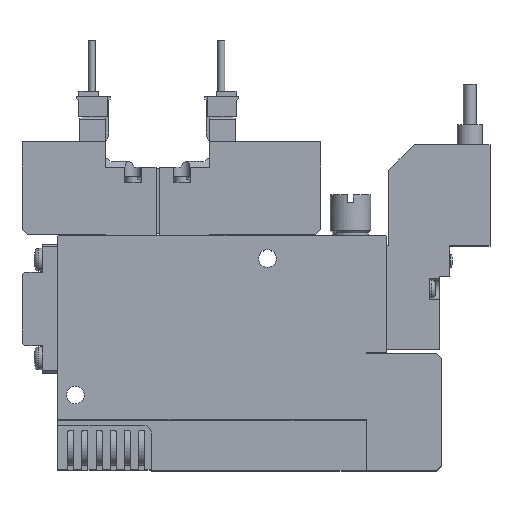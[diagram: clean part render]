
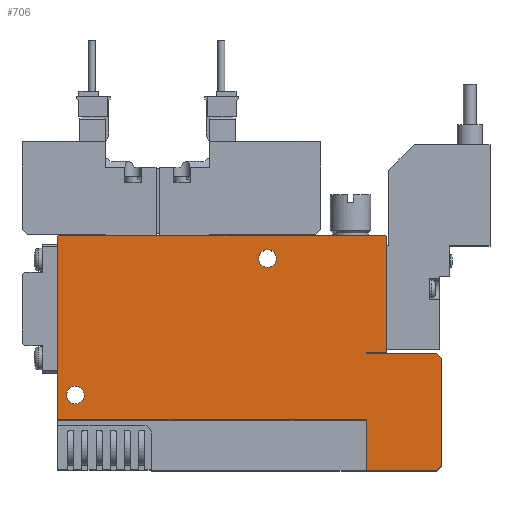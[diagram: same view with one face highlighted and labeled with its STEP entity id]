
A CAD part, top view. The second image highlights one B-rep face of the part: STEP entity #706.
In plain terms, the highlighted planar face has unit normal (0, 0, 1).
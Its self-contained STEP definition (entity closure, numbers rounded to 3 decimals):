
#706=ADVANCED_FACE('',(#1639,#1640,#1641),#1642,.F.);
#1639=FACE_OUTER_BOUND('',#2699,.T.);
#1640=FACE_BOUND('',#2700,.T.);
#1641=FACE_BOUND('',#2701,.T.);
#1642=PLANE('',#2702);
#2699=EDGE_LOOP('',(#6027,#6028,#6029,#6030,#6031,#6032,#6033,#6034,#6035,#6036,#6037,#6038,#6039,#6040));
#2700=EDGE_LOOP('',(#6041));
#2701=EDGE_LOOP('',(#6042));
#2702=AXIS2_PLACEMENT_3D('',#6043,#6044,#6045);
#6027=ORIENTED_EDGE('',*,*,#8033,.T.);
#6028=ORIENTED_EDGE('',*,*,#7822,.F.);
#6029=ORIENTED_EDGE('',*,*,#7852,.F.);
#6030=ORIENTED_EDGE('',*,*,#8034,.T.);
#6031=ORIENTED_EDGE('',*,*,#8035,.T.);
#6032=ORIENTED_EDGE('',*,*,#7778,.T.);
#6033=ORIENTED_EDGE('',*,*,#8036,.T.);
#6034=ORIENTED_EDGE('',*,*,#8037,.T.);
#6035=ORIENTED_EDGE('',*,*,#8038,.T.);
#6036=ORIENTED_EDGE('',*,*,#7884,.T.);
#6037=ORIENTED_EDGE('',*,*,#7901,.T.);
#6038=ORIENTED_EDGE('',*,*,#8039,.T.);
#6039=ORIENTED_EDGE('',*,*,#8040,.T.);
#6040=ORIENTED_EDGE('',*,*,#7983,.T.);
#6041=ORIENTED_EDGE('',*,*,#7985,.F.);
#6042=ORIENTED_EDGE('',*,*,#8041,.F.);
#6043=CARTESIAN_POINT('',(0.0,0.0,5.0));
#6044=DIRECTION('',(0.0,0.0,-1.0));
#6045=DIRECTION('',(0.0,-1.0,0.0));
#7778=EDGE_CURVE('',#9621,#9619,#9622,.T.);
#7822=EDGE_CURVE('',#9705,#9706,#9707,.T.);
#7852=EDGE_CURVE('',#9758,#9705,#9760,.T.);
#7884=EDGE_CURVE('',#9817,#9815,#9818,.T.);
#7901=EDGE_CURVE('',#9815,#9844,#9846,.T.);
#7983=EDGE_CURVE('',#9988,#9986,#9989,.T.);
#7985=EDGE_CURVE('',#9991,#9991,#9992,.T.);
#8033=EDGE_CURVE('',#9986,#9706,#10070,.T.);
#8034=EDGE_CURVE('',#9758,#10071,#10072,.T.);
#8035=EDGE_CURVE('',#10071,#9621,#10073,.T.);
#8036=EDGE_CURVE('',#9619,#10074,#10075,.T.);
#8037=EDGE_CURVE('',#10074,#10076,#10077,.T.);
#8038=EDGE_CURVE('',#10076,#9817,#10078,.T.);
#8039=EDGE_CURVE('',#9844,#10079,#10080,.T.);
#8040=EDGE_CURVE('',#10079,#9988,#10081,.T.);
#8041=EDGE_CURVE('',#10082,#10082,#10083,.T.);
#9619=VERTEX_POINT('',#12694);
#9621=VERTEX_POINT('',#12697);
#9622=LINE('',#12698,#12699);
#9705=VERTEX_POINT('',#12843);
#9706=VERTEX_POINT('',#12844);
#9707=LINE('',#12845,#12846);
#9758=VERTEX_POINT('',#12939);
#9760=LINE('',#12942,#12943);
#9815=VERTEX_POINT('',#13042);
#9817=VERTEX_POINT('',#13045);
#9818=LINE('',#13046,#13047);
#9844=VERTEX_POINT('',#13101);
#9846=LINE('',#13104,#13105);
#9986=VERTEX_POINT('',#13318);
#9988=VERTEX_POINT('',#13321);
#9989=LINE('',#13322,#13323);
#9991=VERTEX_POINT('',#13326);
#9992=CIRCLE('',#13327,1.75);
#10070=LINE('',#13459,#13460);
#10071=VERTEX_POINT('',#13461);
#10072=LINE('',#13462,#13463);
#10073=LINE('',#13464,#13465);
#10074=VERTEX_POINT('',#13466);
#10075=LINE('',#13467,#13468);
#10076=VERTEX_POINT('',#13469);
#10077=LINE('',#13470,#13471);
#10078=LINE('',#13472,#13473);
#10079=VERTEX_POINT('',#13474);
#10080=LINE('',#13475,#13476);
#10081=LINE('',#13477,#13478);
#10082=VERTEX_POINT('',#13479);
#10083=CIRCLE('',#13480,1.75);
#12694=CARTESIAN_POINT('',(76.0,22.25,5.0));
#12697=CARTESIAN_POINT('',(76.0,1.0,5.0));
#12698=CARTESIAN_POINT('',(76.0,1.0,5.0));
#12699=VECTOR('',#15098,1.0);
#12843=CARTESIAN_POINT('',(61.1,10.1,5.0));
#12844=CARTESIAN_POINT('',(0.0,10.1,5.0));
#12845=CARTESIAN_POINT('',(61.1,10.1,5.0));
#12846=VECTOR('',#15170,1.0);
#12939=CARTESIAN_POINT('',(61.1,0.0,5.0));
#12942=CARTESIAN_POINT('',(61.1,0.0,5.0));
#12943=VECTOR('',#15204,1.0);
#13042=CARTESIAN_POINT('',(65.0,23.5,5.0));
#13045=CARTESIAN_POINT('',(61.0,23.5,5.0));
#13046=CARTESIAN_POINT('',(61.0,23.5,5.0));
#13047=VECTOR('',#15242,1.0);
#13101=CARTESIAN_POINT('',(65.0,46.4,5.0));
#13104=CARTESIAN_POINT('',(65.0,23.5,5.0));
#13105=VECTOR('',#15265,1.0);
#13318=CARTESIAN_POINT('',(0.0,46.4,5.0));
#13321=CARTESIAN_POINT('',(0.2,46.6,5.0));
#13322=CARTESIAN_POINT('',(0.2,46.6,5.0));
#13323=VECTOR('',#15376,1.0);
#13326=CARTESIAN_POINT('',(5.25,15.0,5.0));
#13327=AXIS2_PLACEMENT_3D('',#15378,#15379,#15380);
#13459=CARTESIAN_POINT('',(0.0,46.4,5.0));
#13460=VECTOR('',#15446,1.0);
#13461=CARTESIAN_POINT('',(75.0,0.0,5.0));
#13462=CARTESIAN_POINT('',(0.0,0.0,5.0));
#13463=VECTOR('',#15447,1.0);
#13464=CARTESIAN_POINT('',(75.0,0.0,5.0));
#13465=VECTOR('',#15448,1.0);
#13466=CARTESIAN_POINT('',(75.0,23.25,5.0));
#13467=CARTESIAN_POINT('',(76.0,22.25,5.0));
#13468=VECTOR('',#15449,1.0);
#13469=CARTESIAN_POINT('',(61.0,23.25,5.0));
#13470=CARTESIAN_POINT('',(75.0,23.25,5.0));
#13471=VECTOR('',#15450,1.0);
#13472=CARTESIAN_POINT('',(61.0,23.25,5.0));
#13473=VECTOR('',#15451,1.0);
#13474=CARTESIAN_POINT('',(64.8,46.6,5.0));
#13475=CARTESIAN_POINT('',(65.0,46.4,5.0));
#13476=VECTOR('',#15452,1.0);
#13477=CARTESIAN_POINT('',(64.8,46.6,5.0));
#13478=VECTOR('',#15453,1.0);
#13479=CARTESIAN_POINT('',(43.25,42.0,5.0));
#13480=AXIS2_PLACEMENT_3D('',#15454,#15455,#15456);
#15098=DIRECTION('',(0.0,1.0,0.0));
#15170=DIRECTION('',(-1.0,0.0,0.0));
#15204=DIRECTION('',(0.0,1.0,0.0));
#15242=DIRECTION('',(1.0,0.,0.0));
#15265=DIRECTION('',(0.0,1.0,0.0));
#15376=DIRECTION('',(-0.707,-0.707,0.0));
#15378=CARTESIAN_POINT('',(3.5,15.0,5.0));
#15379=DIRECTION('',(0.0,0.0,1.0));
#15380=DIRECTION('',(1.0,0.0,0.0));
#15446=DIRECTION('',(0.0,-1.0,0.0));
#15447=DIRECTION('',(1.0,0.0,0.0));
#15448=DIRECTION('',(0.707,0.707,0.0));
#15449=DIRECTION('',(-0.707,0.707,0.0));
#15450=DIRECTION('',(-1.0,0.0,0.0));
#15451=DIRECTION('',(0.0,1.0,0.0));
#15452=DIRECTION('',(-0.707,0.707,0.0));
#15453=DIRECTION('',(-1.0,0.0,0.0));
#15454=CARTESIAN_POINT('',(41.5,42.0,5.0));
#15455=DIRECTION('',(0.0,0.0,1.0));
#15456=DIRECTION('',(1.0,0.0,0.0));
